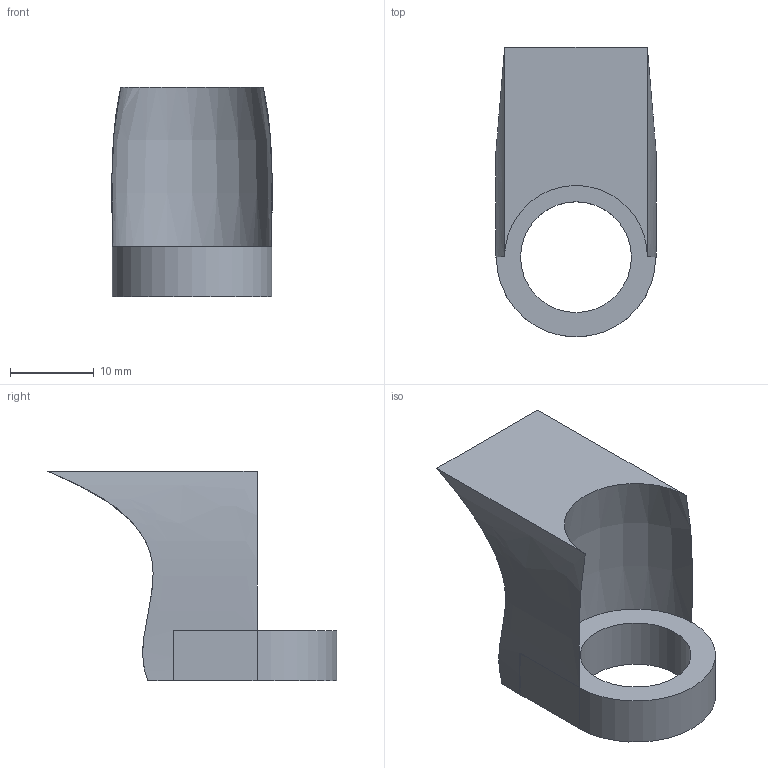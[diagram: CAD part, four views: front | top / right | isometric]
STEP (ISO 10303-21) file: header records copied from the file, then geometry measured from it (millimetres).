
FILE_DESCRIPTION(('FreeCAD Model'),'2;1');
FILE_NAME( '/home/ricardo/FreeCAD/myPrinter/FreeCAD/sensor_holder_v2.step', '2015-01-03T07:05:36',('Author'),(''), 'Open CASCADE STEP processor 6.7','FreeCAD','Unknown');
FILE_SCHEMA(('AUTOMOTIVE_DESIGN_CC2 { 1 2 10303 214 -1 1 5 4 }'));
Length unit declared in the file: millimetre
Products named in the file (1): sensor_holder
Bounding box: 19.1 x 34.5 x 25 mm (x, y, z)
Volume: 4224.9 mm3; surface area: 3017 mm2
Topology: 1 solids, 1 shells, 13 faces, 31 edges, 20 vertices
Faces by surface type: plane 7, bspline 4, cylinder 2
Full cylindrical faces by diameter (mm): 13.2 x1
Entity records: 2561 total; most frequent: CARTESIAN_POINT 1973, DIRECTION 80, ORIENTED_EDGE 62, PCURVE 62, DEFINITIONAL_REPRESENTATION 62, LINE 48, VECTOR 48, B_SPLINE_CURVE_WITH_KNOTS 37
